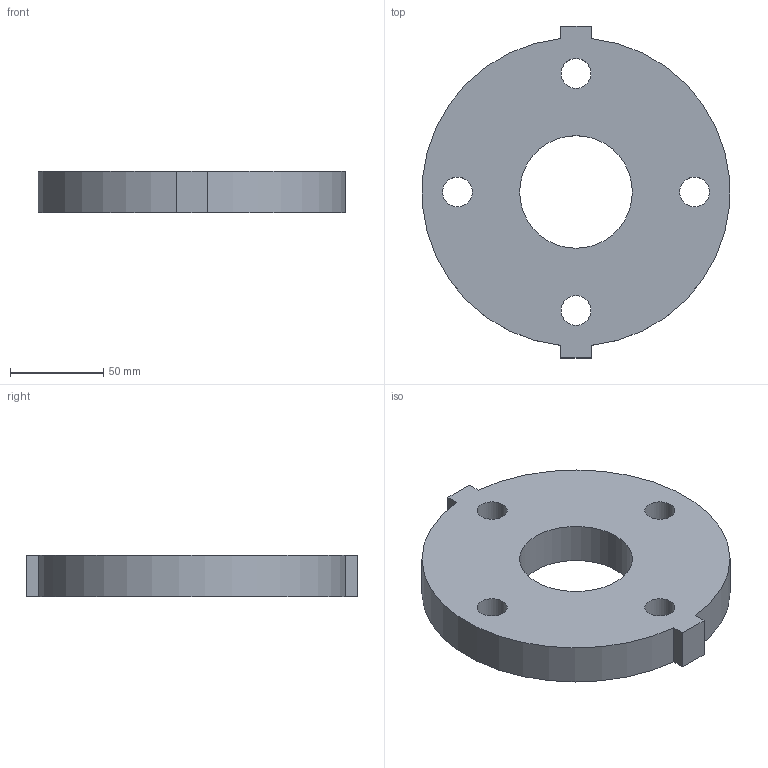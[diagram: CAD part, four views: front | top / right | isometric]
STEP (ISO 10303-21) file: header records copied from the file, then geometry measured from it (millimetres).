
FILE_DESCRIPTION(/* description */ ('VIC FLANGE ADAPTER STYLE 741 PN16 Flanges','CAx-IF Rec.Pracs.---Representation and Presentation of Product Manufacturing Information (PMI)---4.0---2014-10-13'),/* implementation_level */ '2;1');
FILE_NAME(/* name */ 'C:\Users\kkamble\AppData\Roaming\Autodesk\ApplicationPlugins\Back Up\Victaulic_IPS_Flange Adapter_PN16_Style 741 (OGSxFLG)\Victaulic_IPS_Flange Adapter_PN16_Style 741 (OGSxFLG)_2 (50).stp',/* time_stamp */ '2020-07-24T08:16:32+06:00',/* author */ ('jheald'),/* organization */ ('Victaulic'),/* preprocessor_version */ 'ST-DEVELOPER v17.2',/* originating_system */ 'Autodesk Inventor 2019',/* authorisation */ '');
FILE_SCHEMA (('AP242_MANAGED_MODEL_BASED_3D_ENGINEERING_MIM_LF { 1 0 10303 442 1 1 4 }'));
Length unit declared in the file: inch
Products named in the file (1): 741-02.0
Bounding box: 164.48 x 177.8 x 22.35 mm (x, y, z)
Volume: 401365.7 mm3; surface area: 56839.8 mm2
Topology: 1 solids, 1 shells, 15 faces, 39 edges, 26 vertices
Faces by surface type: plane 8, cylinder 7
Full cylindrical faces by diameter (mm): 16.002 x4, 60.325 x1
Entity records: 543 total; most frequent: DIRECTION 85, CARTESIAN_POINT 81, ORIENTED_EDGE 78, EDGE_CURVE 39, AXIS2_PLACEMENT_3D 30, VERTEX_POINT 26, EDGE_LOOP 25, LINE 25
